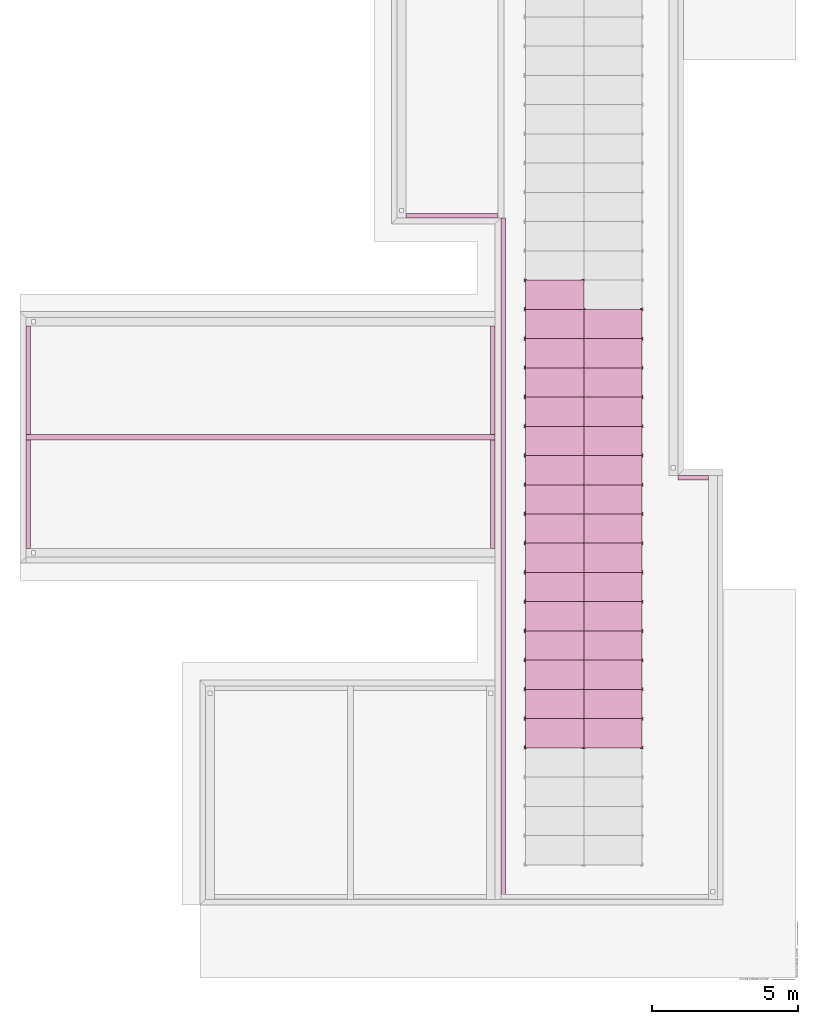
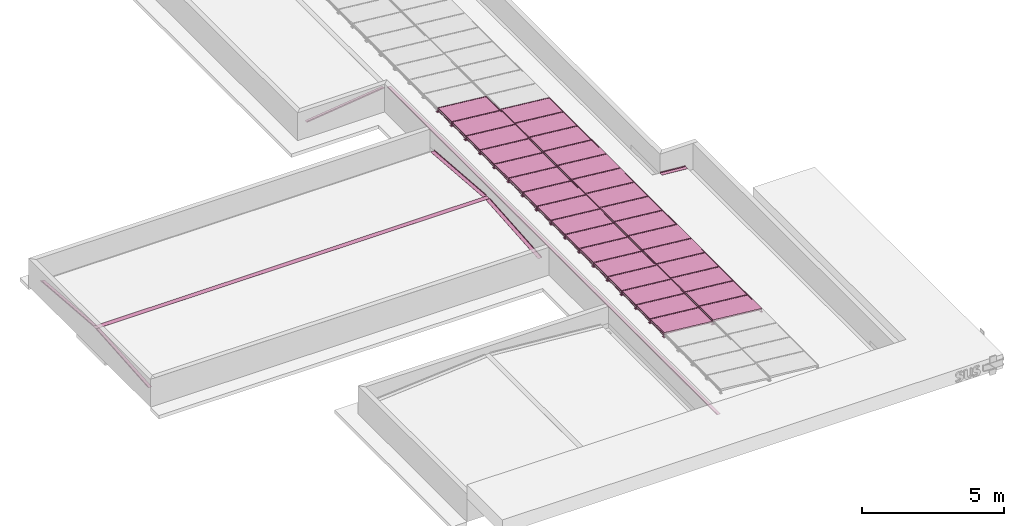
# One storey, part 4 of 5: 39 furnishings.
"""IFC2X3 building model written with IfcOpenShell, lengths in millimetres."""

from ifc_helpers import new_model, entity, si_unit, converted_unit, derived_unit, money_unit, direction, frame, origin_with_axes, place, context, subcontext, project, spatial, polyline, outline, extrude, clip, halfspace, open_shell, faceted_brep, surface_model, source, transform, mapped, material, type_object, element, save


model = new_model("IFC2X3")

# Units and contexts
model_context = context("Model", 3, precision=0.01, world=origin_with_axes(), true_north=direction((0.0, 1.0)))
body_context = subcontext(model_context, "Body", "Model", "MODEL_VIEW")
ifc_project = project(units=[si_unit("LENGTHUNIT", "METRE", prefix="MILLI"), si_unit("AREAUNIT", "SQUARE_METRE"), si_unit("VOLUMEUNIT", "CUBIC_METRE"), converted_unit("PLANEANGLEUNIT", "DEGREE", entity("IfcPlaneAngleMeasure", 0.0174532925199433), si_unit("PLANEANGLEUNIT", "RADIAN"), dimensions=[0, 0, 0, 0, 0, 0, 0]), money_unit("USD"), converted_unit("TIMEUNIT", "Year", entity("IfcTimeMeasure", 31556926.0), si_unit("TIMEUNIT", "SECOND"), dimensions=[0, 0, 1, 0, 0, 0, 0]), si_unit("MASSUNIT", "GRAM", prefix="KILO"), si_unit("THERMODYNAMICTEMPERATUREUNIT", "DEGREE_CELSIUS"), si_unit("LUMINOUSINTENSITYUNIT", "LUMEN"), si_unit("ENERGYUNIT", "JOULE", prefix="MEGA"), derived_unit("THERMALCONDUCTANCEUNIT", [(si_unit("POWERUNIT", "WATT"), 1), (si_unit("LENGTHUNIT", "METRE"), -1), (si_unit("THERMODYNAMICTEMPERATUREUNIT", "KELVIN"), -1)]), derived_unit("SPECIFICHEATCAPACITYUNIT", [(si_unit("ENERGYUNIT", "JOULE"), 1), (si_unit("MASSUNIT", "GRAM", prefix="KILO"), -1), (si_unit("THERMODYNAMICTEMPERATUREUNIT", "KELVIN"), -1)]), derived_unit("MASSDENSITYUNIT", [(si_unit("MASSUNIT", "GRAM", prefix="KILO"), 1), (si_unit("VOLUMEUNIT", "CUBIC_METRE"), -1)])], contexts=[model_context])

# Site, building, storey
site_placement = place(None, origin_with_axes())
site = spatial("IfcSite", under=ifc_project, at=site_placement, Name="Site", CompositionType="ELEMENT")
building_placement = place(site_placement, origin_with_axes())
building = spatial("IfcBuilding", under=site, at=building_placement, Name="Building", CompositionType="ELEMENT")
storey_placement = place(building_placement, frame((0.0, 0.0, 3650.0), z_axis=(0.0, 0.0, 1.0), x_axis=(1.0, 0.0, 0.0)))
storey = spatial("IfcBuildingStorey", under=building, at=storey_placement, Name="COBERTURA", CompositionType="ELEMENT", Elevation=3650.0)

# Furnishings
furnishing_element_type_1 = type_object("IfcFurnishingElementType", Name="Solar Photovoltaic Panel 26")
shared_shape = source(origin_with_axes(), body_context, "Body", "SurfaceModel", [
    faceted_brep([(0.0, -8.230649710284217, 99.4253300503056), (0.0, -10.2207240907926, 119.3260738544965), (-1000.0, -10.2207240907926, 119.3260738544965), (-1000.0, -8.230649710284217, 99.4253300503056), (0.0, 1981.84373070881, 298.4327681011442), (0.0, 1979.853656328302, 318.3335119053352), (-1000.0, 1979.853656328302, 318.3335119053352), (-1000.0, 1981.84373070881, 298.4327681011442)], [[[0, 1, 2, 3]], [[4, 5, 1, 0]], [[1, 5, 6, 2]], [[3, 2, 6, 7]], [[0, 3, 7, 4]], [[7, 6, 5, 4]]]),
    faceted_brep([(0.0, -10.2207240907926, 119.3260738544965), (0.0, -12.21079847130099, 139.2268176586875), (-1000.0, -12.21079847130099, 139.2268176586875), (-1000.0, -10.2207240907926, 119.3260738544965), (0.0, 1979.853656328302, 318.3335119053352), (0.0, 1977.863581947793, 338.2342557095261), (-1000.0, 1977.863581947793, 338.2342557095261), (-24.00000000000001, 11.67009409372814, 141.6149069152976), (-976.0, 11.67009409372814, 141.6149069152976), (-976.0, 1953.982689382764, 335.846166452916), (-24.00000000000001, 1953.982689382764, 335.846166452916), (-1000.0, 1979.853656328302, 318.3335119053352), (-24.00000000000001, 13.66016847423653, 121.7141631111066), (-24.00000000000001, 1955.972763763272, 315.9454226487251), (-976.0, 1955.972763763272, 315.9454226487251), (-976.0, 13.66016847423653, 121.7141631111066)], [[[0, 1, 2, 3]], [[4, 5, 1, 0]], [[1, 5, 6, 2], [7, 8, 9, 10]], [[3, 2, 6, 11]], [[0, 3, 11, 4], [12, 13, 14, 15]], [[11, 6, 5, 4]], [[15, 8, 7, 12]], [[14, 9, 8, 15]], [[13, 10, 9, 14]], [[12, 7, 10, 13]]]),
    faceted_brep([(-24.00000000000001, 13.41140917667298, 124.2017560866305), (-24.00000000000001, 12.91389058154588, 129.1769420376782), (-976.0, 12.91389058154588, 129.1769420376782), (-976.0, 13.41140917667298, 124.2017560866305), (-24.00000000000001, 1955.724004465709, 318.433015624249), (-24.00000000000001, 1955.226485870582, 323.4082015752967), (-976.0, 1955.226485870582, 323.4082015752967), (-976.0, 1955.724004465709, 318.433015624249)], [[[0, 1, 2, 3]], [[4, 5, 1, 0]], [[1, 5, 6, 2]], [[3, 2, 6, 7]], [[0, 3, 7, 4]], [[7, 6, 5, 4]]]),
    surface_model("IfcShellBasedSurfaceModel", [(-24.00000000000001, 13.53578882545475, 122.9579595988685), (-976.0, 13.53578882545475, 122.9579595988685), (-976.0, 1955.848384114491, 317.189219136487), (-24.00000000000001, 1955.848384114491, 317.189219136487)], [open_shell([[[0, 1, 2, 3]]])]),
    faceted_brep([(0.0, 1984.23181996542, 274.551875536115), (0.0, -5.842560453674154, 75.54443748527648), (-24.00000000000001, -5.842560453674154, 75.54443748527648), (-24.00000000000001, 1984.23181996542, 274.551875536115), (0.0, 1981.84373070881, 298.4327681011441), (0.0, -8.230649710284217, 99.4253300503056), (-24.00000000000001, -8.230649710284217, 99.4253300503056), (-24.00000000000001, 1981.84373070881, 298.4327681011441)], [[[0, 1, 2, 3]], [[4, 5, 1, 0]], [[1, 5, 6, 2]], [[3, 2, 6, 7]], [[0, 3, 7, 4]], [[7, 6, 5, 4]]]),
    faceted_brep([(-976.0, 1984.23181996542, 274.551875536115), (-976.0, -5.842560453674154, 75.54443748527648), (-1000.0, -5.842560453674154, 75.54443748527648), (-1000.0, 1984.23181996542, 274.551875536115), (-976.0, 1981.84373070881, 298.4327681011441), (-976.0, -8.230649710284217, 99.4253300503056), (-1000.0, -8.230649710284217, 99.4253300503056), (-1000.0, 1981.84373070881, 298.4327681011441)], [[[0, 1, 2, 3]], [[4, 5, 1, 0]], [[1, 5, 6, 2]], [[3, 2, 6, 7]], [[0, 3, 7, 4]], [[7, 6, 5, 4]]]),
    faceted_brep([(0.0, 16.86518774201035, 89.64131548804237), (4.99999999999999, 16.86518774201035, 89.64131548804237), (4.99999999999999, 23.52169846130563, 6.908668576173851), (-29.00000000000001, 23.52169846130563, 6.908668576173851), (-29.00000000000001, 16.86518774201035, 89.64131548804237), (-24.00000000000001, 16.86518774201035, 89.64131548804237), (-24.00000000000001, 19.75234901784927, 53.75727586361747), (0.0, 19.75234901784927, 53.75727586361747), (0.0, 12.68128001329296, 97.81738808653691), (4.99999999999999, 12.68128001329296, 97.81738808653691), (4.99999999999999, 3.941454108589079, 100.640274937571), (4.99999999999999, -4.234618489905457, 96.45636720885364), (4.99999999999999, -7.057505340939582, 87.71654130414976), (4.99999999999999, -0.4009946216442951, 4.983894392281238), (-29.00000000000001, -0.4009946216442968, 4.983894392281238), (-29.00000000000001, 3.941454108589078, 100.640274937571), (-29.00000000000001, 12.68128001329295, 97.81738808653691), (-29.00000000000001, -7.057505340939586, 87.71654130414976), (-29.00000000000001, -4.23461848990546, 96.45636720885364), (-24.00000000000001, 12.68128001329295, 97.81738808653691), (-24.00000000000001, 3.941454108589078, 100.640274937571), (-24.00000000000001, -4.23461848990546, 96.45636720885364), (-24.00000000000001, -7.057505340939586, 87.71654130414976), (-24.00000000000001, -4.170344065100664, 51.83250167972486), (0.0, -4.170344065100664, 51.83250167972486), (0.0, -7.057505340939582, 87.71654130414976), (0.0, -4.234618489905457, 96.45636720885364), (0.0, 3.941454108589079, 100.640274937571)], [[[0, 1, 2, 3, 4, 5, 6, 7]], [[8, 9, 1, 0]], [[9, 10, 11, 12, 13, 2, 1]], [[2, 13, 14, 3]], [[15, 16, 4, 3, 14, 17, 18]], [[5, 4, 16, 19]], [[5, 19, 20, 21, 22, 23, 6]], [[6, 23, 24, 7]], [[7, 24, 25, 26, 27, 8, 0]], [[27, 10, 9, 8]], [[26, 11, 10, 27]], [[25, 12, 11, 26]], [[24, 23, 22, 17, 14, 13, 12, 25]], [[19, 16, 15, 20]], [[21, 18, 17, 22]], [[20, 15, 18, 21]]]),
    faceted_brep([(37.99999999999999, -37.87759738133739, -3.04755912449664), (37.99999999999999, -38.27859200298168, 1.936335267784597), (-62.00000000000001, -38.27859200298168, 1.936335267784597), (-62.00000000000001, -37.87759738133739, -3.04755912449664), (37.99999999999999, 61.80029046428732, 4.972333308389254), (37.99999999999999, 61.39929584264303, 9.956227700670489), (-62.00000000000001, 61.39929584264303, 9.956227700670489), (-62.00000000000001, 61.80029046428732, 4.972333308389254)], [[[0, 1, 2, 3]], [[4, 5, 1, 0]], [[1, 5, 6, 2]], [[3, 2, 6, 7]], [[0, 3, 7, 4]], [[7, 6, 5, 4]]]),
    faceted_brep([(-976.0, 16.86518774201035, 89.64131548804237), (-971.0, 16.86518774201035, 89.64131548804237), (-971.0, 23.52169846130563, 6.908668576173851), (-1005.0, 23.52169846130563, 6.908668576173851), (-1005.0, 16.86518774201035, 89.64131548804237), (-1000.0, 16.86518774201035, 89.64131548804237), (-1000.0, 19.75234901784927, 53.75727586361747), (-976.0, 19.75234901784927, 53.75727586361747), (-976.0, 12.68128001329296, 97.81738808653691), (-971.0, 12.68128001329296, 97.81738808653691), (-971.0, 3.941454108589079, 100.640274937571), (-971.0, -4.234618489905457, 96.45636720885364), (-971.0, -7.057505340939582, 87.71654130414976), (-971.0, -0.4009946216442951, 4.983894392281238), (-1005.0, -0.4009946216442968, 4.983894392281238), (-1005.0, 3.941454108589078, 100.640274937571), (-1005.0, 12.68128001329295, 97.81738808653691), (-1005.0, -7.057505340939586, 87.71654130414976), (-1005.0, -4.23461848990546, 96.45636720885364), (-1000.0, 12.68128001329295, 97.81738808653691), (-1000.0, 3.941454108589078, 100.640274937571), (-1000.0, -4.23461848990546, 96.45636720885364), (-1000.0, -7.057505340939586, 87.71654130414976), (-1000.0, -4.170344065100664, 51.83250167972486), (-976.0, -4.170344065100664, 51.83250167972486), (-976.0000000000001, -7.057505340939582, 87.71654130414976), (-976.0000000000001, -4.234618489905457, 96.45636720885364), (-976.0000000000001, 3.941454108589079, 100.640274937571)], [[[0, 1, 2, 3, 4, 5, 6, 7]], [[8, 9, 1, 0]], [[9, 10, 11, 12, 13, 2, 1]], [[2, 13, 14, 3]], [[15, 16, 4, 3, 14, 17, 18]], [[5, 4, 16, 19]], [[5, 19, 20, 21, 22, 23, 6]], [[6, 23, 24, 7]], [[7, 24, 25, 26, 27, 8, 0]], [[27, 10, 9, 8]], [[26, 11, 10, 27]], [[25, 12, 11, 26]], [[24, 23, 22, 17, 14, 13, 12, 25]], [[19, 16, 15, 20]], [[21, 18, 17, 22]], [[20, 15, 18, 21]]]),
    faceted_brep([(-938.0, -37.87759738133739, -3.04755912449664), (-938.0, -38.27859200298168, 1.936335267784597), (-1038.0, -38.27859200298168, 1.936335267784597), (-1038.0, -37.87759738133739, -3.04755912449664), (-938.0, 61.80029046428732, 4.972333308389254), (-938.0, 61.39929584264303, 9.956227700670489), (-1038.0, 61.39929584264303, 9.956227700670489), (-1038.0, 61.80029046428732, 4.972333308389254)], [[[0, 1, 2, 3]], [[4, 5, 1, 0]], [[1, 5, 6, 2]], [[3, 2, 6, 7]], [[0, 3, 7, 4]], [[7, 6, 5, 4]]]),
    faceted_brep([(0.0, 1983.058675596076, 286.2606642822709), (4.99999999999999, 1983.058675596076, 286.2606642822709), (4.99999999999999, 1992.786757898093, 165.3519732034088), (-29.00000000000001, 1992.786757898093, 165.3519732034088), (-29.00000000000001, 1983.058675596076, 286.2606642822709), (-24.00000000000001, 1983.058675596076, 286.2606642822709), (-24.00000000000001, 1985.945836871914, 250.376624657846), (0.0, 1985.945836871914, 250.376624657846), (0.0, 1978.874767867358, 294.4367368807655), (4.99999999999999, 1978.874767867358, 294.4367368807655), (4.99999999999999, 1970.134941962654, 297.2596237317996), (4.99999999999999, 1961.95886936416, 293.0757160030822), (4.99999999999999, 1959.135982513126, 284.3358900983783), (4.99999999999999, 1968.864064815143, 163.4271990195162), (-29.00000000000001, 1968.864064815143, 163.4271990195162), (-29.00000000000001, 1970.134941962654, 297.2596237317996), (-29.00000000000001, 1978.874767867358, 294.4367368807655), (-29.00000000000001, 1959.135982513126, 284.3358900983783), (-29.00000000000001, 1961.95886936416, 293.0757160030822), (-24.00000000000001, 1978.874767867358, 294.4367368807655), (-24.00000000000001, 1970.134941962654, 297.2596237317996), (-24.00000000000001, 1961.95886936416, 293.0757160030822), (-24.00000000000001, 1959.135982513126, 284.3358900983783), (-24.00000000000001, 1962.023143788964, 248.4518504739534), (0.0, 1962.023143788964, 248.4518504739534), (0.0, 1959.135982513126, 284.3358900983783), (0.0, 1961.95886936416, 293.0757160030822), (0.0, 1970.134941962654, 297.2596237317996)], [[[0, 1, 2, 3, 4, 5, 6, 7]], [[8, 9, 1, 0]], [[9, 10, 11, 12, 13, 2, 1]], [[2, 13, 14, 3]], [[15, 16, 4, 3, 14, 17, 18]], [[5, 4, 16, 19]], [[5, 19, 20, 21, 22, 23, 6]], [[6, 23, 24, 7]], [[7, 24, 25, 26, 27, 8, 0]], [[27, 10, 9, 8]], [[26, 11, 10, 27]], [[25, 12, 11, 26]], [[24, 23, 22, 17, 14, 13, 12, 25]], [[19, 16, 15, 20]], [[21, 18, 17, 22]], [[20, 15, 18, 21]]]),
    faceted_brep([(37.99999999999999, 1931.38746205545, 155.3957455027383), (37.99999999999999, 1930.986467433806, 160.3796398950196), (-62.00000000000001, 1930.986467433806, 160.3796398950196), (-62.00000000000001, 1931.38746205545, 155.3957455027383), (37.99999999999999, 2031.065349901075, 163.4156379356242), (37.99999999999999, 2030.66435527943, 168.3995323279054), (-62.00000000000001, 2030.66435527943, 168.3995323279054), (-62.00000000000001, 2031.065349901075, 163.4156379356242)], [[[0, 1, 2, 3]], [[4, 5, 1, 0]], [[1, 5, 6, 2]], [[3, 2, 6, 7]], [[0, 3, 7, 4]], [[7, 6, 5, 4]]]),
    faceted_brep([(-976.0, 1983.058675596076, 286.2606642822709), (-971.0, 1983.058675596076, 286.2606642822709), (-971.0, 1992.786757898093, 165.3519732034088), (-1005.0, 1992.786757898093, 165.3519732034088), (-1005.0, 1983.058675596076, 286.2606642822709), (-1000.0, 1983.058675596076, 286.2606642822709), (-1000.0, 1985.945836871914, 250.376624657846), (-976.0, 1985.945836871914, 250.376624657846), (-976.0, 1978.874767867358, 294.4367368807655), (-971.0, 1978.874767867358, 294.4367368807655), (-971.0, 1970.134941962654, 297.2596237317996), (-971.0, 1961.95886936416, 293.0757160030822), (-971.0, 1959.135982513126, 284.3358900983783), (-971.0, 1968.864064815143, 163.4271990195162), (-1005.0, 1968.864064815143, 163.4271990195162), (-1005.0, 1970.134941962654, 297.2596237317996), (-1005.0, 1978.874767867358, 294.4367368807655), (-1005.0, 1959.135982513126, 284.3358900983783), (-1005.0, 1961.95886936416, 293.0757160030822), (-1000.0, 1978.874767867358, 294.4367368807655), (-1000.0, 1970.134941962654, 297.2596237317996), (-1000.0, 1961.95886936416, 293.0757160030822), (-1000.0, 1959.135982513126, 284.3358900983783), (-1000.0, 1962.023143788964, 248.4518504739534), (-976.0, 1962.023143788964, 248.4518504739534), (-976.0, 1959.135982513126, 284.3358900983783), (-976.0, 1961.95886936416, 293.0757160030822), (-976.0, 1970.134941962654, 297.2596237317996)], [[[0, 1, 2, 3, 4, 5, 6, 7]], [[8, 9, 1, 0]], [[9, 10, 11, 12, 13, 2, 1]], [[2, 13, 14, 3]], [[15, 16, 4, 3, 14, 17, 18]], [[5, 4, 16, 19]], [[5, 19, 20, 21, 22, 23, 6]], [[6, 23, 24, 7]], [[7, 24, 25, 26, 27, 8, 0]], [[27, 10, 9, 8]], [[26, 11, 10, 27]], [[25, 12, 11, 26]], [[24, 23, 22, 17, 14, 13, 12, 25]], [[19, 16, 15, 20]], [[21, 18, 17, 22]], [[20, 15, 18, 21]]]),
    faceted_brep([(-938.0, 1931.38746205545, 155.3957455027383), (-938.0, 1930.986467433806, 160.3796398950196), (-1038.0, 1930.986467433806, 160.3796398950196), (-1038.0, 1931.38746205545, 155.3957455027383), (-938.0, 2031.065349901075, 163.4156379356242), (-938.0, 2030.66435527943, 168.3995323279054), (-1038.0, 2030.66435527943, 168.3995323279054), (-1038.0, 2031.065349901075, 163.4156379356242)], [[[0, 1, 2, 3]], [[4, 5, 1, 0]], [[1, 5, 6, 2]], [[3, 2, 6, 7]], [[0, 3, 7, 4]], [[7, 6, 5, 4]]]),
    faceted_brep([(-24.00000000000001, 1962.189078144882, 246.3894804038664), (0.0, 1962.189078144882, 246.3894804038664), (0.0, 1296.987755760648, 205.8274691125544), (-24.00000000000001, 1296.987755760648, 205.8274691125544), (-24.00000000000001, 1960.263942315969, 270.3166683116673), (0.0, 1960.263942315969, 270.3166683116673), (0.0, 1913.152710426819, 267.4439645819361), (-24.00000000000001, 1913.152710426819, 267.4439645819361)], [[[0, 1, 2, 3]], [[1, 0, 4, 5]], [[1, 5, 6, 2]], [[2, 6, 7, 3]], [[4, 0, 3, 7]], [[5, 4, 7, 6]]]),
    faceted_brep([(-1000.0, 1962.189078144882, 246.3894804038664), (-976.0, 1962.189078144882, 246.3894804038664), (-976.0, 1296.987755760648, 205.8274691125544), (-1000.0, 1296.987755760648, 205.8274691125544), (-1000.0, 1960.263942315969, 270.3166683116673), (-976.0, 1960.263942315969, 270.3166683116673), (-976.0, 1913.152710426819, 267.4439645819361), (-1000.0, 1913.152710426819, 267.4439645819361)], [[[0, 1, 2, 3]], [[1, 0, 4, 5]], [[1, 5, 6, 2]], [[2, 6, 7, 3]], [[4, 0, 3, 7]], [[5, 4, 7, 6]]]),
    faceted_brep([(-29.00000000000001, 1974.257011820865, 246.0271140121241), (-29.00000000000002, 1972.328395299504, 269.9975628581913), (-971.0, 1977.104336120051, 210.6382014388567), (-971.0, 1979.032952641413, 186.6677525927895), (-29.00000000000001, 1986.21835836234, 246.9895011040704), (-29.00000000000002, 1984.289741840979, 270.9599499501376), (-971.0, 1989.065682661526, 211.600588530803), (-971.0, 1990.994299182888, 187.6301396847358)], [[[0, 1, 2, 3]], [[1, 0, 4, 5]], [[1, 5, 6, 2]], [[2, 6, 7, 3]], [[4, 0, 3, 7]], [[5, 4, 7, 6]]]),
    faceted_brep([(-971.0, 1960.367048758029, 269.035175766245), (-971.0, 1962.29566527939, 245.0647269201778), (-29.00000000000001, 1967.071606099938, 185.7053655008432), (-29.00000000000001, 1965.142989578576, 209.6758143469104), (-971.0, 1972.328395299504, 269.9975628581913), (-971.0, 1974.257011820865, 246.0271140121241), (-29.00000000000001, 1979.032952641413, 186.6677525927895), (-29.00000000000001, 1977.104336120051, 210.6382014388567)], [[[0, 1, 2, 3]], [[0, 4, 5, 1]], [[1, 5, 6, 2]], [[3, 2, 6, 7]], [[4, 0, 3, 7]], [[5, 4, 7, 6]]]),
])
for number, where, z_axis, x_axis, name in (
    (1, (250591.5851466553, -18543.75987612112, 503.5244237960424), (0.0, 0.0, 1.0), (0.0, 1.0, 0.0), "Painel Solar"),
    (2, (250591.5851466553, -19543.75987612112, 503.5244237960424), (0.0, 0.0, 1.0), (0.0, 1.0, 0.0), "Painel Solar"),
    (3, (248598.3973941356, -15543.75987612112, 651.0244237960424), (0.0, 0.0, 1.0), (0.0, 1.0, 0.0), "Painel Solar"),
    (4, (250591.5851466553, -14543.75987612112, 503.5244237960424), (0.0, 0.0, 1.0), (0.0, 1.0, 0.0), "Painel Solar"),
    (5, (248598.3973941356, -16543.75987612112, 651.0244237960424), (0.0, 0.0, 1.0), (0.0, 1.0, 0.0), "Painel Solar"),
    (6, (248598.3973941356, -12543.75987612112, 651.0244237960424), (0.0, 0.0, 1.0), (0.0, 1.0, 0.0), "Painel Solar"),
    (7, (248598.3973941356, -14543.75987612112, 651.0244237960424), (0.0, 0.0, 1.0), (0.0, 1.0, 0.0), "Painel Solar"),
    (8, (250591.5851466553, -21543.75987612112, 503.5244237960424), (0.0, 0.0, 1.0), (0.0, 1.0, 0.0), "Painel Solar"),
    (9, (250591.5851466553, -20543.75987612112, 503.5244237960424), (0.0, 0.0, 1.0), (0.0, 1.0, 0.0), "Painel Solar"),
    (10, (248598.3973941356, -21543.75987612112, 651.0244237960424), (0.0, 0.0, 1.0), (0.0, 1.0, 0.0), "Painel Solar"),
    (11, (248598.3973941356, -20543.75987612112, 651.0244237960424), (0.0, 0.0, 1.0), (0.0, 1.0, 0.0), "Painel Solar"),
    (12, (250591.5851466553, -16543.75987612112, 503.5244237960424), (0.0, 0.0, 1.0), (0.0, 1.0, 0.0), "Painel Solar"),
    (13, (250591.5851466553, -13543.75987612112, 503.5244237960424), (0.0, 0.0, 1.0), (0.0, 1.0, 0.0), "Painel Solar"),
    (14, (250591.5851466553, -12543.75987612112, 503.5244237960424), (0.0, 0.0, 1.0), (0.0, 1.0, 0.0), "Painel Solar"),
    (15, (248598.3973941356, -17543.75987612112, 651.0244237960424), (0.0, 0.0, 1.0), (0.0, 1.0, 0.0), "Painel Solar"),
    (16, (250591.5851466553, -15543.75987612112, 503.5244237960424), (0.0, 0.0, 1.0), (0.0, 1.0, 0.0), "Painel Solar"),
    (17, (250591.5851466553, -17543.75987612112, 503.5244237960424), (0.0, 0.0, 1.0), (0.0, 1.0, 0.0), "Painel Solar"),
    (18, (248598.3973941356, -18543.75987612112, 651.0244237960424), (0.0, 0.0, 1.0), (0.0, 1.0, 0.0), "Painel Solar"),
    (19, (248598.3973941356, -19543.75987612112, 651.0244237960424), (0.0, 0.0, 1.0), (0.0, 1.0, 0.0), "Painel Solar"),
    (20, (250591.5851466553, -10543.75987612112, 503.5244237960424), (0.0, 0.0, 1.0), (0.0, 1.0, 0.0), "Painel Solar"),
    (21, (248598.3973941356, -13543.75987612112, 651.0244237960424), (0.0, 0.0, 1.0), (0.0, 1.0, 0.0), "Painel Solar"),
    (22, (250591.5851466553, -7543.759876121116, 503.5244237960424), (0.0, 0.0, 1.0), (0.0, 1.0, 0.0), "Painel Solar"),
    (23, (248598.3973941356, -11543.75987612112, 651.0244237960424), (0.0, 0.0, 1.0), (0.0, 1.0, 0.0), "Painel Solar"),
    (24, (248598.3973941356, -7543.759876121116, 651.0244237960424), (0.0, 0.0, 1.0), (0.0, 1.0, 0.0), "Painel Solar"),
    (25, (248598.3973941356, -6543.759876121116, 651.0244237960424), (0.0, 0.0, 1.0), (0.0, 1.0, 0.0), "Painel Solar"),
    (26, (248598.3973941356, -8543.759876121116, 651.0244237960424), (0.0, 0.0, 1.0), (0.0, 1.0, 0.0), "Painel Solar"),
    (27, (250591.5851466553, -11543.75987612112, 503.5244237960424), (0.0, 0.0, 1.0), (0.0, 1.0, 0.0), "Painel Solar"),
    (28, (248598.3973941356, -10543.75987612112, 651.0244237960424), (0.0, 0.0, 1.0), (0.0, 1.0, 0.0), "Painel Solar"),
    (29, (250591.5851466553, -8543.759876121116, 503.5244237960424), (0.0, 0.0, 1.0), (0.0, 1.0, 0.0), "Painel Solar"),
    (30, (250591.5851466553, -9543.759876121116, 503.5244237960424), (0.0, 0.0, 1.0), (0.0, 1.0, 0.0), "Painel Solar"),
    (31, (248598.3973941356, -9543.759876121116, 651.0244237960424), (0.0, 0.0, 1.0), (0.0, 1.0, 0.0), "Painel Solar"),
):
    element("IfcFurnishingElement", number, at=place(storey_placement, frame(where, z_axis=z_axis, x_axis=x_axis)), inside=storey, type_object=furnishing_element_type_1, Name=name, context=body_context, shape_type="MappedRepresentation", body=[
        mapped(shared_shape, transform((0.0, 0.0, 0.0))),
    ])
ifc_material = material(Name="_GRANILITE")
furnishing_element_type_2 = type_object("IfcFurnishingElementType", Name="Rufo Metálico 155 x 50")
furnishing_1_placement = place(storey_placement, frame((229526.7852538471, -12018.47920652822, 745.5721112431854), z_axis=(0.0, 0.0, 1.0), x_axis=(-0.9999999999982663, -1.862117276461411e-06, 0.0)))
element("IfcFurnishingElement", 32, at=furnishing_1_placement, inside=storey, type_object=furnishing_element_type_2, material=ifc_material, Name="Rufo", context=body_context, shape_type="Clipping", body=[
    clip(clip(extrude(outline(polyline([(-155.0, 4.999999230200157), (-155.0, -7.697998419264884e-07), (0.0, -7.697998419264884e-07), (0.0, 49.99999923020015), (-4.999999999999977, 49.99999923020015), (-4.999999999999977, 4.999999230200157), (-155.0, 4.999999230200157)])), frame((0.0, 3717.63566391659, -297.7165964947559), z_axis=(0.0, -0.9968087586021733, 0.07982667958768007), x_axis=(1.0, 0.0, 0.0)), (0.0, 0.0, 1.0), 3747.091794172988), halfspace(frame((0.0, 0.0, 0.0), z_axis=(0.0, 1.0, 0.0), x_axis=(0.0, 0.0, 1.0)), True)), halfspace(frame((0.0, 3700.137408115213, 0.0), z_axis=(0.0, -1.0, 0.0), x_axis=(0.0, 0.0, -1.0)), True)),
])
furnishing_2_placement = place(storey_placement, frame((245676.7908368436, -4422.20012596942, 861.0429239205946), z_axis=(0.0, 0.0, 1.0), x_axis=(0.0, 1.0, 0.0)))
element("IfcFurnishingElement", 33, at=furnishing_2_placement, inside=storey, type_object=furnishing_element_type_2, material=ifc_material, Name="Rufo", context=body_context, shape_type="Clipping", body=[
    clip(clip(extrude(outline(polyline([(-155.0, 4.999999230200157), (-155.0, -7.697998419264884e-07), (0.0, -7.697998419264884e-07), (0.0, 49.99999923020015), (-4.999999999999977, 49.99999923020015), (-4.999999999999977, 4.999999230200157), (-155.0, 4.999999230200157)])), frame((0.0, 3176.337626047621, -384.5245947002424), z_axis=(0.0, 0.9927519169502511, -0.1201816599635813), x_axis=(-1.0, 0.0, 0.0)), (0.0, 0.0, -1.0), 3226.064602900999), halfspace(frame((0.0, 0.0, 0.0), z_axis=(0.0, 1.0, 0.0), x_axis=(0.0, 0.0, 1.0)), True)), halfspace(frame((0.0, 3149.993433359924, 0.0), z_axis=(0.0, -1.0, 0.0), x_axis=(0.0, 0.0, -1.0)), True)),
])
furnishing_3_placement = place(storey_placement, frame((245575.0270271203, -11818.78622099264, 745.5721112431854), z_axis=(0.0, 0.0, 1.0), x_axis=(0.9999999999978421, -2.077508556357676e-06, 0.0)))
element("IfcFurnishingElement", 34, at=furnishing_3_placement, inside=storey, type_object=furnishing_element_type_2, material=ifc_material, Name="Rufo", context=body_context, shape_type="Clipping", body=[
    clip(clip(extrude(outline(polyline([(-155.0, 4.999999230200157), (-155.0, -7.697998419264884e-07), (0.0, -7.697998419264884e-07), (0.0, 49.99999923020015), (-4.999999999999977, 49.99999923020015), (-4.999999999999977, 4.999999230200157), (-155.0, 4.999999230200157)])), frame((0.0, 3717.635663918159, -297.7165964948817), z_axis=(0.0, -0.9968087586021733, 0.07982667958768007), x_axis=(1.0, 0.0, 0.0)), (0.0, 0.0, 1.0), 3747.091794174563), halfspace(frame((0.0, 0.0, 0.0), z_axis=(0.0, 1.0, 0.0), x_axis=(0.0, 0.0, 1.0)), True)), halfspace(frame((0.0, 3700.137408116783, 0.0), z_axis=(0.0, -1.0, 0.0), x_axis=(0.0, 0.0, -1.0)), True)),
])
furnishing_4_placement = place(storey_placement, frame((229526.7852538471, -11818.78622099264, 745.5721112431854), z_axis=(0.0, 0.0, 1.0), x_axis=(0.9999999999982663, -1.862117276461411e-06, 0.0)))
element("IfcFurnishingElement", 35, at=furnishing_4_placement, inside=storey, type_object=furnishing_element_type_2, material=ifc_material, Name="Rufo", context=body_context, shape_type="Clipping", body=[
    clip(clip(extrude(outline(polyline([(-155.0, 4.999999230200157), (-155.0, -7.697998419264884e-07), (0.0, -7.697998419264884e-07), (0.0, 49.99999923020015), (-4.999999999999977, 49.99999923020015), (-4.999999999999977, 4.999999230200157), (-155.0, 4.999999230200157)])), frame((0.0, 3717.63566391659, -297.7165964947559), z_axis=(0.0, 0.9968087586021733, -0.07982667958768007), x_axis=(-1.0, 0.0, 0.0)), (0.0, 0.0, -1.0), 3747.091794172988), halfspace(frame((0.0, 0.0, 0.0), z_axis=(0.0, 1.0, 0.0), x_axis=(0.0, 0.0, 1.0)), True)), halfspace(frame((0.0, 3700.137408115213, 0.0), z_axis=(0.0, -1.0, 0.0), x_axis=(0.0, 0.0, -1.0)), True)),
])
furnishing_5_placement = place(storey_placement, frame((251824.193350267, -13218.60508800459, 388.2449298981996), z_axis=(0.0, 0.0, 1.0), x_axis=(0.0, -1.0, 0.0)))
element("IfcFurnishingElement", 36, at=furnishing_5_placement, inside=storey, type_object=furnishing_element_type_2, material=ifc_material, Name="Rufo", context=body_context, shape_type="Clipping", body=[
    clip(clip(extrude(outline(polyline([(-155.0, 4.999999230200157), (-155.0, -7.697998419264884e-07), (0.0, -7.697998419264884e-07), (0.0, 49.99999923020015), (-4.999999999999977, 49.99999923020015), (-4.999999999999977, 4.999999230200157), (-155.0, 4.999999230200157)])), frame((0.0, 1068.48980983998, -85.56705883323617), z_axis=(0.0, 0.9968087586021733, -0.07982667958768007), x_axis=(-1.0, 0.0, 0.0)), (0.0, 0.0, -1.0), 1089.464810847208), halfspace(frame((0.0, 0.0, 0.0), z_axis=(0.0, 1.0, 0.0), x_axis=(0.0, 0.0, 1.0)), True)), halfspace(frame((0.0, 1050.991554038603, 0.0), z_axis=(0.0, -1.0, 0.0), x_axis=(0.0, 0.0, -1.0)), True)),
])
furnishing_6_placement = place(storey_placement, frame((245575.0270271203, -12018.47920652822, 745.5721112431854), z_axis=(0.0, 0.0, 1.0), x_axis=(-0.9999999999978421, -2.077508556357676e-06, 0.0)))
element("IfcFurnishingElement", 37, at=furnishing_6_placement, inside=storey, type_object=furnishing_element_type_2, material=ifc_material, Name="Rufo", context=body_context, shape_type="Clipping", body=[
    clip(clip(extrude(outline(polyline([(-155.0, 4.999999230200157), (-155.0, -7.697998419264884e-07), (0.0, -7.697998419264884e-07), (0.0, 49.99999923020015), (-4.999999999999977, 49.99999923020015), (-4.999999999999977, 4.999999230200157), (-155.0, 4.999999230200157)])), frame((0.0, 3717.635663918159, -297.7165964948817), z_axis=(0.0, 0.9968087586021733, -0.07982667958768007), x_axis=(-1.0, 0.0, 0.0)), (0.0, 0.0, -1.0), 3747.091794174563), halfspace(frame((0.0, 0.0, 0.0), z_axis=(0.0, 1.0, 0.0), x_axis=(0.0, 0.0, 1.0)), True)), halfspace(frame((0.0, 3700.137408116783, 0.0), z_axis=(0.0, -1.0, 0.0), x_axis=(0.0, 0.0, -1.0)), True)),
])
furnishing_7_placement = place(storey_placement, frame((245776.7908368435, -4422.200125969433, 872.0911874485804), z_axis=(0.0, 0.0, 1.0), x_axis=(-0.9999999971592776, 7.537536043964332e-05, 0.0)))
element("IfcFurnishingElement", 38, at=furnishing_7_placement, inside=storey, type_object=furnishing_element_type_2, material=ifc_material, Name="Rufo", context=body_context, shape_type="SweptSolid", body=[
    extrude(outline(polyline([(-155.0, 4.999999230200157), (-155.0, -7.697998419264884e-07), (0.0, -7.697998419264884e-07), (0.0, 49.99999923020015), (-4.999999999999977, 49.99999923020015), (-4.999999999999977, 4.999999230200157), (-155.0, 4.999999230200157)])), frame((0.0, 23298.36495531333, 0.0), z_axis=(0.0, -1.0, 0.0), x_axis=(1.0, 0.0, 0.0)), (0.0, 0.0, 1.0), 23298.36495531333),
])
furnishing_element_type_3 = type_object("IfcFurnishingElementType", Name="Rufo Metálico Central 10% 200 x 15")
furnishing_8_placement = place(storey_placement, frame((229526.7852538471, -11918.63271376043, 753.559826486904), z_axis=(0.0, 0.0, 1.0), x_axis=(0.0, -1.0, 0.0)))
element("IfcFurnishingElement", 39, at=furnishing_8_placement, inside=storey, type_object=furnishing_element_type_3, material=ifc_material, Name="Cumeeira em Fibrocimento", context=body_context, shape_type="SweptSolid", body=[
    extrude(outline(polyline([(0.0, 5.024937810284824), (-100.0, -4.975062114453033), (-100.0, -9.999999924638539), (0.0, 0.0), (100.0, -9.999999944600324), (100.0, -4.975062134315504), (0.0, 5.024937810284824)])), frame((0.0, 16048.24177327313, 0.0), z_axis=(0.0, 1.0, 0.0), x_axis=(-1.0, 0.0, 0.0)), (0.0, 0.0, -1.0), 16048.24177327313),
])

save(model, "model.ifc")
